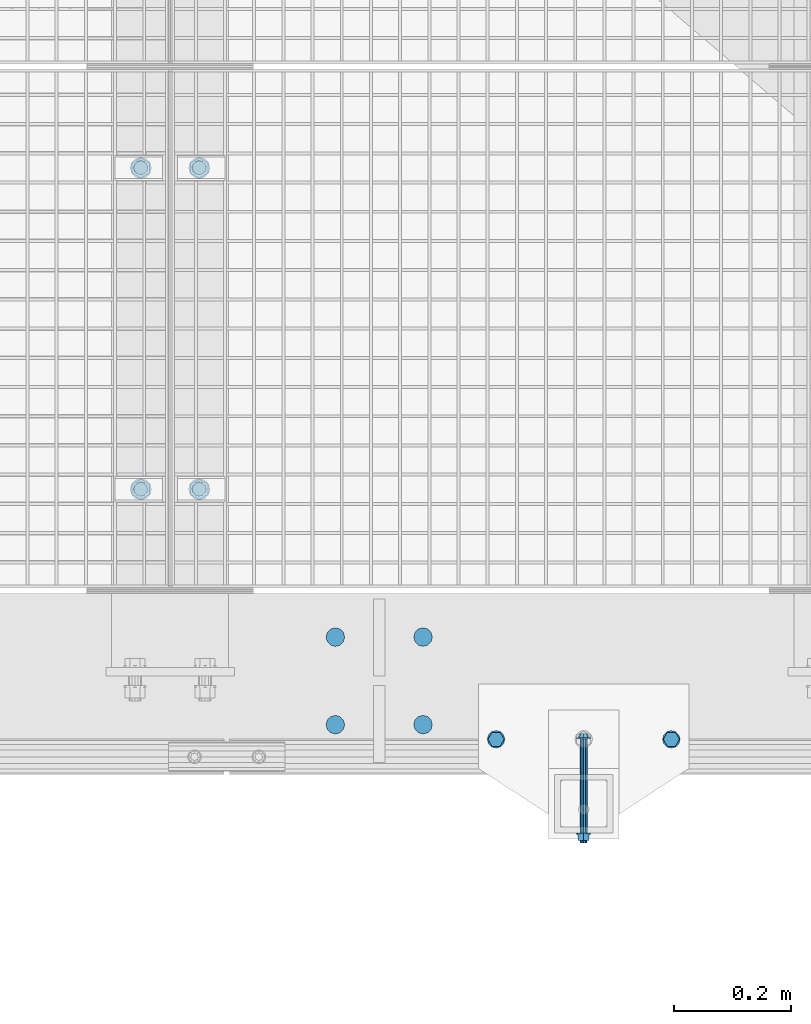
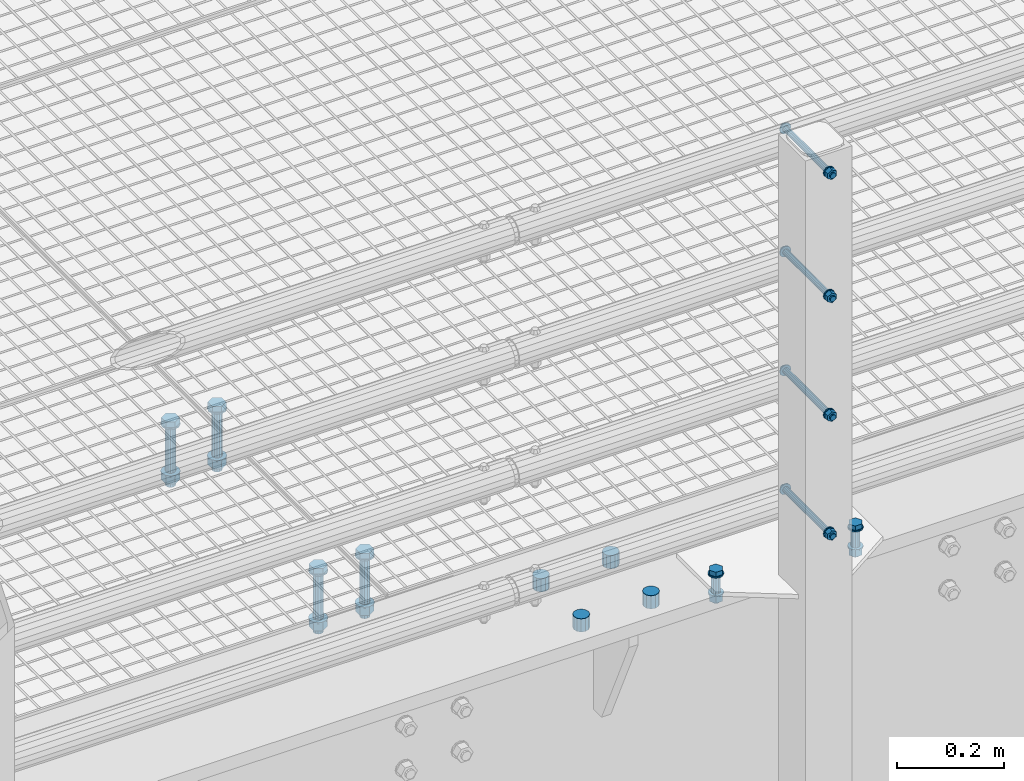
# One storey, part 10 of 1530: 8 mechanical fasteners.
"""IFC2X3 building model written with IfcOpenShell, lengths in millimetres."""

from ifc_helpers import new_model, si_unit, frame, origin_with_axes, place, context, subcontext, project, spatial, faceted_brep, source, transform, mapped, material, type_object, element, save


model = new_model("IFC2X3")

# Units and contexts
model_context = context("Model", 3, precision=1e-05, world=origin_with_axes())
body_context = subcontext(model_context, "Body", "Model", "MODEL_VIEW")
ifc_project = project(units=[si_unit("LENGTHUNIT", "METRE", prefix="MILLI"), si_unit("AREAUNIT", "SQUARE_METRE"), si_unit("VOLUMEUNIT", "CUBIC_METRE"), si_unit("MASSUNIT", "GRAM", prefix="KILO"), si_unit("TIMEUNIT", "SECOND"), si_unit("PLANEANGLEUNIT", "RADIAN"), si_unit("SOLIDANGLEUNIT", "STERADIAN"), si_unit("THERMODYNAMICTEMPERATUREUNIT", "DEGREE_CELSIUS"), si_unit("LUMINOUSINTENSITYUNIT", "LUMEN")], contexts=[model_context])

# Site, building, storey
site_placement = place(None, origin_with_axes())
site = spatial("IfcSite", under=ifc_project, at=site_placement, Name="Brattvåg", CompositionType="ELEMENT")
building_placement = place(site_placement, origin_with_axes())
building = spatial("IfcBuilding", under=site, at=building_placement, Name="Undefined", CompositionType="ELEMENT")
storey_placement = place(building_placement, origin_with_axes())
storey = spatial("IfcBuildingStorey", under=building, at=storey_placement, Name="Undefined", CompositionType="ELEMENT", Elevation=0.0)

# Mechanical fasteners
ifc_material = material(Name="8")
mechanical_fastener_type = type_object("IfcMechanicalFastenerType", Name="Bolt assembly")
shared_shape_1 = source(origin_with_axes(), body_context, "Body", "Brep", [
    faceted_brep([(17.3205080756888, -10.5, 0.0), (8.66025403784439, -10.5, 15.0), (-8.66025403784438, -10.5, 15.0), (-17.3205080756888, -10.5, 2.12115047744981e-15), (-8.66025403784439, -10.5, -15.0), (8.66025403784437, -10.5, -15.0), (8.66025403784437, 2.0, -15.0), (-8.66025403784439, 2.0, -15.0), (-17.3205080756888, 2.0, 2.12115047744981e-15), (-8.66025403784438, 2.0, 15.0), (8.66025403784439, 2.0, 15.0), (17.3205080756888, 2.0, 0.0), (10.0, 2.0, 0.0), (8.66025403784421, 2.0, 5.0000000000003), (4.9999999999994, 2.0, 8.66025403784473), (-1.03633598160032e-12, 2.0, 10.0), (-5.00000000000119, 2.0, 8.6602540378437), (-8.66025403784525, 2.0, 4.99999999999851), (-10.0, 2.0, -2.07267196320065e-12), (-8.66025403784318, 2.0, -5.00000000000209), (-4.99999999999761, 2.0, -8.66025403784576), (3.09790571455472e-12, 2.0, -10.0), (5.00000000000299, 2.0, -8.66025403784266), (8.66025403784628, 2.0, -4.99999999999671), (8.66025403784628, 142.0, -4.99999999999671), (5.00000000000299, 142.0, -8.66025403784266), (3.09790571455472e-12, 142.0, -10.0), (-4.99999999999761, 142.0, -8.66025403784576), (-8.66025403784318, 142.0, -5.00000000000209), (-10.0, 142.0, -2.07267196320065e-12), (-8.66025403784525, 142.0, 4.99999999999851), (-5.00000000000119, 142.0, 8.6602540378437), (-1.03633598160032e-12, 142.0, 10.0), (4.9999999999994, 142.0, 8.66025403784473), (8.66025403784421, 142.0, 5.0000000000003), (10.0, 142.0, 0.0), (18.5, 2.0, 0.0), (16.0214699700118, 2.0, 9.25000000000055), (9.2499999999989, 2.0, 16.0214699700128), (-1.9172215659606e-12, 2.0, 18.5), (-9.25000000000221, 2.0, 16.0214699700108), (-16.0214699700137, 2.0, 9.24999999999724), (-18.5, 2.0, -3.83444313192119e-12), (-16.0214699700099, 2.0, -9.25000000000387), (-9.24999999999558, 2.0, -16.0214699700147), (5.73112557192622e-12, 2.0, -18.5), (9.25000000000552, 2.0, -16.0214699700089), (16.0214699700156, 2.0, -9.24999999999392), (16.0214699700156, 5.0, -9.24999999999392), (9.25000000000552, 5.0, -16.0214699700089), (5.73112557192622e-12, 5.0, -18.5), (-9.24999999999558, 5.0, -16.0214699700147), (-16.0214699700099, 5.0, -9.25000000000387), (-18.5, 5.0, -3.83444313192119e-12), (-16.0214699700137, 5.0, 9.24999999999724), (-9.25000000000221, 5.0, 16.0214699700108), (-1.9172215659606e-12, 5.0, 18.5), (9.2499999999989, 5.0, 16.0214699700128), (16.0214699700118, 5.0, 9.25000000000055), (18.5, 5.0, 0.0), (18.5, 109.998931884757, 0.0), (16.0214699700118, 109.998931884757, 9.25000000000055), (9.2499999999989, 109.998931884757, 16.0214699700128), (-1.9172215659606e-12, 109.998931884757, 18.5), (-9.25000000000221, 109.998931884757, 16.0214699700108), (-16.0214699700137, 109.998931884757, 9.24999999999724), (-18.5, 109.998931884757, -3.83444313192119e-12), (-16.0214699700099, 109.998931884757, -9.25000000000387), (-9.24999999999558, 109.998931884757, -16.0214699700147), (5.73112557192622e-12, 109.998931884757, -18.5), (9.25000000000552, 109.998931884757, -16.0214699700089), (16.0214699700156, 109.998931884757, -9.24999999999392), (16.0214699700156, 112.998931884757, -9.24999999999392), (9.25000000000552, 112.998931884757, -16.0214699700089), (5.73112557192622e-12, 112.998931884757, -18.5), (-9.24999999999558, 112.998931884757, -16.0214699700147), (-16.0214699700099, 112.998931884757, -9.25000000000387), (-18.5, 112.998931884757, -3.83444313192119e-12), (-16.0214699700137, 112.998931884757, 9.24999999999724), (-9.25000000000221, 112.998931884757, 16.0214699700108), (-1.9172215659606e-12, 112.998931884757, 18.5), (9.2499999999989, 112.998931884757, 16.0214699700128), (16.0214699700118, 112.998931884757, 9.25000000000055), (18.5, 112.998931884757, 0.0), (17.3205080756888, 112.998931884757, 0.0), (8.66025403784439, 112.998931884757, 15.0), (-8.66025403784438, 112.998931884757, 15.0), (-17.3205080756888, 112.998931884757, 2.12115047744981e-15), (-8.66025403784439, 112.998931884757, -15.0), (8.66025403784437, 112.998931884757, -15.0), (8.66025403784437, 130.998931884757, -15.0), (-8.66025403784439, 130.998931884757, -15.0), (-17.3205080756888, 130.998931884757, 2.12115047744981e-15), (-8.66025403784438, 130.998931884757, 15.0), (8.66025403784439, 130.998931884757, 15.0), (17.3205080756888, 130.998931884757, 0.0)], [[[0, 1, 2, 3, 4, 5]], [[6, 7, 8, 9, 10, 11]], [[0, 11, 10, 1]], [[1, 10, 9, 2]], [[2, 9, 8, 3]], [[3, 8, 7, 4]], [[4, 7, 6, 5]], [[5, 6, 11, 0]], [[12, 13, 14, 15, 16, 17, 18, 19, 20, 21, 22, 23]], [[24, 25, 26, 27, 28, 29, 30, 31, 32, 33, 34, 35]], [[12, 35, 34, 13]], [[13, 34, 33, 14]], [[14, 33, 32, 15]], [[15, 32, 31, 16]], [[16, 31, 30, 17]], [[17, 30, 29, 18]], [[18, 29, 28, 19]], [[19, 28, 27, 20]], [[20, 27, 26, 21]], [[21, 26, 25, 22]], [[22, 25, 24, 23]], [[23, 24, 35, 12]], [[36, 37, 38, 39, 40, 41, 42, 43, 44, 45, 46, 47]], [[48, 49, 50, 51, 52, 53, 54, 55, 56, 57, 58, 59]], [[36, 59, 58, 37]], [[37, 58, 57, 38]], [[38, 57, 56, 39]], [[39, 56, 55, 40]], [[40, 55, 54, 41]], [[41, 54, 53, 42]], [[42, 53, 52, 43]], [[43, 52, 51, 44]], [[44, 51, 50, 45]], [[45, 50, 49, 46]], [[46, 49, 48, 47]], [[47, 48, 59, 36]], [[60, 61, 62, 63, 64, 65, 66, 67, 68, 69, 70, 71]], [[72, 73, 74, 75, 76, 77, 78, 79, 80, 81, 82, 83]], [[60, 83, 82, 61]], [[61, 82, 81, 62]], [[62, 81, 80, 63]], [[63, 80, 79, 64]], [[64, 79, 78, 65]], [[65, 78, 77, 66]], [[66, 77, 76, 67]], [[67, 76, 75, 68]], [[68, 75, 74, 69]], [[69, 74, 73, 70]], [[70, 73, 72, 71]], [[71, 72, 83, 60]], [[84, 85, 86, 87, 88, 89]], [[90, 91, 92, 93, 94, 95]], [[84, 95, 94, 85]], [[85, 94, 93, 86]], [[86, 93, 92, 87]], [[87, 92, 91, 88]], [[88, 91, 90, 89]], [[89, 90, 95, 84]]]),
])
for number, where, z_axis, x_axis, name in (
    (1, (5292.00477935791, 327.919311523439, -25.0), (-1.0, 1.99999855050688e-09, 0.0), (0.0, 1.0, 0.0), "Bolt assembly"),
    (2, (5192.01487731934, 327.920486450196, -25.0), (-1.0, 1.99999855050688e-09, 0.0), (0.0, 1.0, 0.0), "Bolt assembly"),
):
    element("IfcMechanicalFastener", number, at=place(storey_placement, frame(where, z_axis=z_axis, x_axis=x_axis)), inside=storey, type_object=mechanical_fastener_type, material=ifc_material, Name=name, NominalDiameter=20.0, NominalLength=140.0, context=body_context, shape_type="MappedRepresentation", body=[
        mapped(shared_shape_1, transform((0.0, 0.0, 0.0))),
        mapped(shared_shape_1, transform((549.999999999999, 0.0, 0.0))),
    ])
shared_shape_2 = source(origin_with_axes(), body_context, "Body", "Brep", [
    faceted_brep([(16.0, 0.0, 0.0), (13.8564064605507, 0.0, 8.00000000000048), (7.99999999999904, 0.0, 13.8564064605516), (-1.65813757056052e-12, 0.0, 16.0), (-8.00000000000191, 0.0, 13.8564064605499), (-13.8564064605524, 0.0, 7.99999999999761), (-16.0, 0.0, -3.31627514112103e-12), (-13.8564064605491, 0.0, -8.00000000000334), (-7.99999999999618, 0.0, -13.8564064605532), (4.95664914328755e-12, 0.0, -16.0), (8.00000000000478, 0.0, -13.8564064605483), (13.8564064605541, 0.0, -7.99999999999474), (13.8564064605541, 30.1, -7.99999999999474), (8.00000000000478, 30.1, -13.8564064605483), (4.95664914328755e-12, 30.1, -16.0), (-7.99999999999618, 30.1, -13.8564064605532), (-13.8564064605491, 30.1, -8.00000000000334), (-16.0, 30.1, -3.31627514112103e-12), (-13.8564064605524, 30.1, 7.99999999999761), (-8.00000000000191, 30.1, 13.8564064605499), (-1.65813757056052e-12, 30.1, 16.0), (7.99999999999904, 30.1, 13.8564064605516), (13.8564064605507, 30.1, 8.00000000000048), (16.0, 30.1, 0.0)], [[[0, 1, 2, 3, 4, 5, 6, 7, 8, 9, 10, 11]], [[12, 13, 14, 15, 16, 17, 18, 19, 20, 21, 22, 23]], [[0, 23, 22, 1]], [[1, 22, 21, 2]], [[2, 21, 20, 3]], [[3, 20, 19, 4]], [[4, 19, 18, 5]], [[5, 18, 17, 6]], [[6, 17, 16, 7]], [[7, 16, 15, 8]], [[8, 15, 14, 9]], [[9, 14, 13, 10]], [[10, 13, 12, 11]], [[11, 12, 23, 0]]]),
])
mechanical_fastener_1_placement = place(storey_placement, frame((5675.0, 0.0, 0.0), z_axis=(0.0, -1.0, 0.0), x_axis=(-1.0, 1.99999855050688e-09, 0.0)))
element("IfcMechanicalFastener", 3, at=mechanical_fastener_1_placement, inside=storey, type_object=mechanical_fastener_type, material=ifc_material, Name="Bolt assembly", NominalDiameter=30.0, NominalLength=30.0, context=body_context, shape_type="MappedRepresentation", body=[
    mapped(shared_shape_2, transform((0.0, 0.0, -75.0))),
    mapped(shared_shape_2, transform((150.0, 0.0, -75.0))),
    mapped(shared_shape_2, transform((0.0, 0.0, 75.0))),
    mapped(shared_shape_2, transform((150.0, 0.0, 75.0))),
])
shared_shape_3 = source(origin_with_axes(), body_context, "Body", "Brep", [
    faceted_brep([(6.49435320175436, -9.99984019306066, 0.0), (4.59220118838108, -9.99984019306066, 4.59220118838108), (3.97664443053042e-16, -9.99984019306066, 6.49435320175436), (-4.59220118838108, -9.99984019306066, 4.59220118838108), (-6.49435320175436, -9.99984019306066, 7.95328886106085e-16), (-4.59220118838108, -9.99984019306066, -4.59220118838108), (-1.19299332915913e-15, -9.99984019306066, -6.49435320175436), (4.59220118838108, -9.99984019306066, -4.59220118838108), (7.34846922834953, -2.49984019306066, -7.34846922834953), (-1.90903542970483e-15, -2.49984019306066, -10.3923048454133), (-7.34846922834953, -2.49984019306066, -7.34846922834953), (-10.3923048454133, -2.49984019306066, 1.27269028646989e-15), (-7.34846922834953, -2.49984019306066, 7.34846922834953), (6.36345143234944e-16, -2.49984019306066, 10.3923048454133), (7.34846922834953, -2.49984019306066, 7.34846922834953), (10.3923048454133, -2.49984019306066, 0.0), (6.0, -2.49984019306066, 0.0), (5.19615242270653, -2.49984019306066, 3.00000000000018), (2.99999999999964, -2.49984019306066, 5.19615242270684), (-6.21801588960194e-13, -2.49984019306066, 6.0), (-3.00000000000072, -2.49984019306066, 5.19615242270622), (-5.19615242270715, -2.49984019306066, 2.9999999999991), (-6.0, -2.49984019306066, -1.24360317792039e-12), (-5.19615242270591, -2.49984019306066, -3.00000000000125), (-2.99999999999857, -2.49984019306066, -5.19615242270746), (1.85874342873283e-12, -2.49984019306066, -6.0), (3.00000000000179, -2.49984019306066, -5.1961524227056), (5.19615242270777, -2.49984019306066, -2.99999999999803), (5.19615242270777, 177.500159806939, -2.99999999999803), (3.00000000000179, 177.500159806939, -5.1961524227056), (1.85874342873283e-12, 177.500159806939, -6.0), (-2.99999999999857, 177.500159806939, -5.19615242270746), (-5.19615242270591, 177.500159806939, -3.00000000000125), (-6.0, 177.500159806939, -1.24360317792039e-12), (-5.19615242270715, 177.500159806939, 2.9999999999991), (-3.00000000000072, 177.500159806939, 5.19615242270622), (-6.21801588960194e-13, 177.500159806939, 6.0), (2.99999999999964, 177.500159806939, 5.19615242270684), (5.19615242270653, 177.500159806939, 3.00000000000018), (6.0, 177.500159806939, 0.0), (12.0, -2.49984019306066, 0.0), (10.3923048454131, -2.49984019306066, 6.00000000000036), (5.99999999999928, -2.49984019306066, 10.3923048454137), (-1.24360317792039e-12, -2.49984019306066, 12.0), (-6.00000000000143, -2.49984019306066, 10.3923048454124), (-10.3923048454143, -2.49984019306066, 5.99999999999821), (-12.0, -2.49984019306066, -2.48720635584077e-12), (-10.3923048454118, -2.49984019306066, -6.00000000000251), (-5.99999999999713, -2.49984019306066, -10.3923048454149), (3.71748685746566e-12, -2.49984019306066, -12.0), (6.00000000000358, -2.49984019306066, -10.3923048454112), (10.3923048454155, -2.49984019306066, -5.99999999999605), (10.3923048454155, 0.000159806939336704, -5.99999999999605), (6.00000000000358, 0.000159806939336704, -10.3923048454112), (3.71748685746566e-12, 0.000159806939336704, -12.0), (-5.99999999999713, 0.000159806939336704, -10.3923048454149), (-10.3923048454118, 0.000159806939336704, -6.00000000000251), (-12.0, 0.000159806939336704, -2.48720635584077e-12), (-10.3923048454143, 0.000159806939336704, 5.99999999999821), (-6.00000000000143, 0.000159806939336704, 10.3923048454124), (-1.24360317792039e-12, 0.000159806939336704, 12.0), (5.99999999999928, 0.000159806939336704, 10.3923048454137), (10.3923048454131, 0.000159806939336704, 6.00000000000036), (12.0, 0.000159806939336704, 0.0), (12.0, 160.299998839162, 0.0), (10.3923048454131, 160.299998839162, 6.00000000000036), (5.99999999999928, 160.299998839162, 10.3923048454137), (-1.24360317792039e-12, 160.299998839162, 12.0), (-6.00000000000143, 160.299998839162, 10.3923048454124), (-10.3923048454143, 160.299998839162, 5.99999999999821), (-12.0, 160.299998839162, -2.48720635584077e-12), (-10.3923048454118, 160.299998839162, -6.00000000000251), (-5.99999999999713, 160.299998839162, -10.3923048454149), (3.71748685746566e-12, 160.299998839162, -12.0), (6.00000000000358, 160.299998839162, -10.3923048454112), (10.3923048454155, 160.299998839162, -5.99999999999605), (10.3923048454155, 162.799998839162, -5.99999999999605), (6.00000000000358, 162.799998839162, -10.3923048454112), (3.71748685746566e-12, 162.799998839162, -12.0), (-5.99999999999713, 162.799998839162, -10.3923048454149), (-10.3923048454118, 162.799998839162, -6.00000000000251), (-12.0, 162.799998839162, -2.48720635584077e-12), (-10.3923048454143, 162.799998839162, 5.99999999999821), (-6.00000000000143, 162.799998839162, 10.3923048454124), (-1.24360317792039e-12, 162.799998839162, 12.0), (5.99999999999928, 162.799998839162, 10.3923048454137), (10.3923048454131, 162.799998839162, 6.00000000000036), (12.0, 162.799998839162, 0.0), (10.9696551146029, 162.799998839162, 0.0), (5.48482755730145, 162.799998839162, 9.5), (-5.48482755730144, 162.799998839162, 9.5), (-10.9696551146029, 162.799998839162, 1.34339530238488e-15), (-5.48482755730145, 162.799998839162, -9.5), (5.48482755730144, 162.799998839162, -9.5), (5.48482755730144, 173.599999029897, -9.5), (-5.48482755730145, 173.599999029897, -9.5), (-10.9696551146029, 173.599999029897, 1.34339530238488e-15), (-5.48482755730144, 173.599999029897, 9.5), (5.48482755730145, 173.599999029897, 9.5), (10.9696551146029, 173.599999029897, 0.0)], [[[0, 1, 2, 3, 4, 5, 6, 7]], [[8, 9, 10, 11, 12, 13, 14, 15]], [[0, 15, 14, 1]], [[1, 14, 13, 2]], [[2, 13, 12, 3]], [[3, 12, 11, 4]], [[4, 11, 10, 5]], [[5, 10, 9, 6]], [[6, 9, 8, 7]], [[7, 8, 15, 0]], [[16, 17, 18, 19, 20, 21, 22, 23, 24, 25, 26, 27]], [[28, 29, 30, 31, 32, 33, 34, 35, 36, 37, 38, 39]], [[16, 39, 38, 17]], [[17, 38, 37, 18]], [[18, 37, 36, 19]], [[19, 36, 35, 20]], [[20, 35, 34, 21]], [[21, 34, 33, 22]], [[22, 33, 32, 23]], [[23, 32, 31, 24]], [[24, 31, 30, 25]], [[25, 30, 29, 26]], [[26, 29, 28, 27]], [[27, 28, 39, 16]], [[40, 41, 42, 43, 44, 45, 46, 47, 48, 49, 50, 51]], [[52, 53, 54, 55, 56, 57, 58, 59, 60, 61, 62, 63]], [[40, 63, 62, 41]], [[41, 62, 61, 42]], [[42, 61, 60, 43]], [[43, 60, 59, 44]], [[44, 59, 58, 45]], [[45, 58, 57, 46]], [[46, 57, 56, 47]], [[47, 56, 55, 48]], [[48, 55, 54, 49]], [[49, 54, 53, 50]], [[50, 53, 52, 51]], [[51, 52, 63, 40]], [[64, 65, 66, 67, 68, 69, 70, 71, 72, 73, 74, 75]], [[76, 77, 78, 79, 80, 81, 82, 83, 84, 85, 86, 87]], [[64, 87, 86, 65]], [[65, 86, 85, 66]], [[66, 85, 84, 67]], [[67, 84, 83, 68]], [[68, 83, 82, 69]], [[69, 82, 81, 70]], [[70, 81, 80, 71]], [[71, 80, 79, 72]], [[72, 79, 78, 73]], [[73, 78, 77, 74]], [[74, 77, 76, 75]], [[75, 76, 87, 64]], [[88, 89, 90, 91, 92, 93]], [[94, 95, 96, 97, 98, 99]], [[88, 99, 98, 89]], [[89, 98, 97, 90]], [[90, 97, 96, 91]], [[91, 96, 95, 92]], [[92, 95, 94, 93]], [[93, 94, 99, 88]]]),
    faceted_brep([(6.5, 0.100159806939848, 0.0), (5.62916512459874, 0.100159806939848, 3.25000000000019), (3.24999999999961, 0.100159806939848, 5.62916512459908), (-6.7361838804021e-13, 0.100159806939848, 6.5), (-3.25000000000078, 0.100159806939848, 5.6291651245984), (-5.62916512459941, 0.100159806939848, 3.24999999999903), (-6.5, 0.100159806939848, -1.34723677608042e-12), (-5.62916512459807, 0.100159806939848, -3.25000000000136), (-3.24999999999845, 0.100159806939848, -5.62916512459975), (2.01363871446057e-12, 0.100159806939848, -6.5), (3.25000000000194, 0.100159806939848, -5.62916512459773), (5.62916512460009, 0.100159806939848, -3.24999999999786), (5.62916512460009, 60.4001552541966, -3.24999999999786), (3.25000000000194, 60.4001552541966, -5.62916512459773), (2.01363871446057e-12, 60.4001552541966, -6.5), (-3.24999999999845, 60.4001552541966, -5.62916512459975), (-5.62916512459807, 60.4001552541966, -3.25000000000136), (-6.5, 60.4001552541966, -1.34723677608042e-12), (-5.62916512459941, 60.4001552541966, 3.24999999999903), (-3.25000000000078, 60.4001552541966, 5.6291651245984), (-6.7361838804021e-13, 60.4001552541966, 6.5), (3.24999999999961, 60.4001552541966, 5.62916512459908), (5.62916512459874, 60.4001552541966, 3.25000000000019), (6.5, 60.4001552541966, 0.0), (6.5, 60.1999988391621, 0.0), (5.62916512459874, 60.1999988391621, 3.25000000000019), (3.24999999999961, 60.1999988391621, 5.62916512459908), (-6.7361838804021e-13, 60.1999988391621, 6.5), (-3.25000000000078, 60.1999988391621, 5.6291651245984), (-5.62916512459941, 60.1999988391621, 3.24999999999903), (-6.5, 60.1999988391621, -1.34723677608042e-12), (-5.62916512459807, 60.1999988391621, -3.25000000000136), (-3.24999999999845, 60.1999988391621, -5.62916512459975), (2.01363871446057e-12, 60.1999988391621, -6.5), (3.25000000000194, 60.1999988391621, -5.62916512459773), (5.62916512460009, 60.1999988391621, -3.24999999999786), (5.62916512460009, 160.299998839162, -3.24999999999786), (3.25000000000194, 160.299998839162, -5.62916512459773), (2.01363871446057e-12, 160.299998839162, -6.5), (-3.24999999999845, 160.299998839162, -5.62916512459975), (-5.62916512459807, 160.299998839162, -3.25000000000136), (-6.5, 160.299998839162, -1.34723677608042e-12), (-5.62916512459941, 160.299998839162, 3.24999999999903), (-3.25000000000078, 160.299998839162, 5.6291651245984), (-6.7361838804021e-13, 160.299998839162, 6.5), (3.24999999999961, 160.299998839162, 5.62916512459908), (5.62916512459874, 160.299998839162, 3.25000000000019), (6.5, 160.299998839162, 0.0)], [[[0, 1, 2, 3, 4, 5, 6, 7, 8, 9, 10, 11]], [[12, 13, 14, 15, 16, 17, 18, 19, 20, 21, 22, 23]], [[0, 23, 22, 1]], [[1, 22, 21, 2]], [[2, 21, 20, 3]], [[3, 20, 19, 4]], [[4, 19, 18, 5]], [[5, 18, 17, 6]], [[6, 17, 16, 7]], [[7, 16, 15, 8]], [[8, 15, 14, 9]], [[9, 14, 13, 10]], [[10, 13, 12, 11]], [[11, 12, 23, 0]], [[24, 25, 26, 27, 28, 29, 30, 31, 32, 33, 34, 35]], [[36, 37, 38, 39, 40, 41, 42, 43, 44, 45, 46, 47]], [[24, 47, 46, 25]], [[25, 46, 45, 26]], [[26, 45, 44, 27]], [[27, 44, 43, 28]], [[28, 43, 42, 29]], [[29, 42, 41, 30]], [[30, 41, 40, 31]], [[31, 40, 39, 32]], [[32, 39, 38, 33]], [[33, 38, 37, 34]], [[34, 37, 36, 35]], [[35, 36, 47, 24]]]),
])
for number, where, z_axis, x_axis, name in (
    (4, (5949.9999999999, -99.6997226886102, 149.550000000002), (-1.0, 1.99999855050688e-09, 0.0), (0.0, 0.0, -1.0), "Bolt assembly"),
    (5, (5949.9999999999, -99.6997226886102, 419.550000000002), (-1.0, 1.99999855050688e-09, 0.0), (0.0, 0.0, -1.0), "Bolt assembly"),
    (6, (5949.9999999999, -99.6997226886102, 689.550000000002), (-1.0, 1.99999855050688e-09, 0.0), (0.0, 0.0, -1.0), "Bolt assembly"),
    (7, (5949.9999999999, -99.6997226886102, 969.550000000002), (-1.0, 1.99999855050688e-09, 0.0), (0.0, 0.0, -1.0), "Bolt assembly"),
):
    element("IfcMechanicalFastener", number, at=place(storey_placement, frame(where, z_axis=z_axis, x_axis=x_axis)), inside=storey, type_object=mechanical_fastener_type, material=ifc_material, Name=name, NominalDiameter=12.0, NominalLength=180.0, context=body_context, shape_type="MappedRepresentation", body=[
        mapped(shared_shape_3, transform((0.0, 0.0, 0.0))),
    ])
shared_shape_4 = source(origin_with_axes(), body_context, "Body", "Brep", [
    faceted_brep([(13.856406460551, -13.0, 0.0), (6.92820323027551, -13.0, 12.0), (-6.92820323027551, -13.0, 12.0), (-13.856406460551, -13.0, 1.69692038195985e-15), (-6.92820323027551, -13.0, -12.0), (6.9282032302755, -13.0, -12.0), (6.9282032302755, -3.0, -12.0), (-6.92820323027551, -3.0, -12.0), (-13.856406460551, -3.0, 1.69692038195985e-15), (-6.92820323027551, -3.0, 12.0), (6.92820323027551, -3.0, 12.0), (13.856406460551, -3.0, 0.0), (8.0, -3.0, 0.0), (6.92820323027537, -3.0, 4.00000000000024), (3.99999999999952, -3.0, 6.92820323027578), (-8.29068785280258e-13, -3.0, 8.0), (-4.00000000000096, -3.0, 6.92820323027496), (-6.9282032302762, -3.0, 3.99999999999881), (-8.0, -3.0, -1.65813757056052e-12), (-6.92820323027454, -3.0, -4.00000000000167), (-3.99999999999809, -3.0, -6.92820323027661), (2.47832457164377e-12, -3.0, -8.0), (4.00000000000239, -3.0, -6.92820323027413), (6.92820323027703, -3.0, -3.99999999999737), (6.92820323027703, 62.0000000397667, -3.99999999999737), (4.00000000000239, 62.0000000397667, -6.92820323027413), (2.47832457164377e-12, 62.0000000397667, -8.0), (-3.99999999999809, 62.0000000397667, -6.92820323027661), (-6.92820323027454, 62.0000000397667, -4.00000000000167), (-8.0, 62.0000000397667, -1.65813757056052e-12), (-6.9282032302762, 62.0000000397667, 3.99999999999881), (-4.00000000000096, 62.0000000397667, 6.92820323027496), (-8.29068785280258e-13, 62.0000000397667, 8.0), (3.99999999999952, 62.0000000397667, 6.92820323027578), (6.92820323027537, 62.0000000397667, 4.00000000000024), (8.0, 62.0000000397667, 0.0), (15.0, -3.0, 0.0), (12.9903810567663, -3.0, 7.50000000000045), (7.4999999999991, -3.0, 12.9903810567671), (-1.55450397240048e-12, -3.0, 15.0), (-7.50000000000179, -3.0, 12.9903810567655), (-12.9903810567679, -3.0, 7.49999999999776), (-15.0, -3.0, -3.10900794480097e-12), (-12.9903810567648, -3.0, -7.50000000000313), (-7.49999999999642, -3.0, -12.9903810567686), (4.64685857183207e-12, -3.0, -15.0), (7.50000000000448, -3.0, -12.990381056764), (12.9903810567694, -3.0, -7.49999999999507), (12.9903810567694, 0.0, -7.49999999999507), (7.50000000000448, 0.0, -12.990381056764), (0.0, 0.0, -15.0), (-7.49999999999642, 0.0, -12.9903810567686), (-12.9903810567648, 0.0, -7.50000000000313), (-15.0, 0.0, -3.10900794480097e-12), (-12.9903810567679, 0.0, 7.49999999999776), (-7.50000000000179, 0.0, 12.9903810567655), (0.0, 0.0, 15.0), (7.4999999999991, 0.0, 12.9903810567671), (12.9903810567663, 0.0, 7.50000000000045), (15.0, 0.0, 0.0), (15.0, 39.9997390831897, 0.0), (12.9903810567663, 39.9997390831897, 7.50000000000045), (7.4999999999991, 39.9997390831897, 12.9903810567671), (-1.55450397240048e-12, 39.9997390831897, 15.0), (-7.50000000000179, 39.9997390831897, 12.9903810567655), (-12.9903810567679, 39.9997390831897, 7.49999999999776), (-15.0, 39.9997390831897, -3.10900794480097e-12), (-12.9903810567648, 39.9997390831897, -7.50000000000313), (-7.49999999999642, 39.9997390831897, -12.9903810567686), (4.64685857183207e-12, 39.9997390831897, -15.0), (7.50000000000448, 39.9997390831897, -12.990381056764), (12.9903810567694, 39.9997390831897, -7.49999999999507), (12.9903810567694, 42.9997390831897, -7.49999999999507), (7.50000000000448, 42.9997390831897, -12.990381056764), (4.64685857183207e-12, 42.9997390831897, -15.0), (-7.49999999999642, 42.9997390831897, -12.9903810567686), (-12.9903810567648, 42.9997390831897, -7.50000000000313), (-15.0, 42.9997390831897, -3.10900794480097e-12), (-12.9903810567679, 42.9997390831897, 7.49999999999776), (-7.50000000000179, 42.9997390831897, 12.9903810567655), (-1.55450397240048e-12, 42.9997390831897, 15.0), (7.4999999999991, 42.9997390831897, 12.9903810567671), (12.9903810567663, 42.9997390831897, 7.50000000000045), (15.0, 42.9997390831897, 0.0), (13.856406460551, 42.9997390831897, 0.0), (6.92820323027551, 42.9997390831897, 12.0), (-6.92820323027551, 42.9997390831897, 12.0), (-13.856406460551, 42.9997390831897, 1.69692038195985e-15), (-6.92820323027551, 42.9997390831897, -12.0), (6.9282032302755, 42.9997390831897, -12.0), (6.9282032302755, 57.7997392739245, -12.0), (-6.92820323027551, 57.7997392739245, -12.0), (-13.856406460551, 57.7997392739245, 1.69692038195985e-15), (-6.92820323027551, 57.7997392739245, 12.0), (6.92820323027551, 57.7997392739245, 12.0), (13.856406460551, 57.7997392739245, 0.0)], [[[0, 1, 2, 3, 4, 5]], [[6, 7, 8, 9, 10, 11]], [[0, 11, 10, 1]], [[1, 10, 9, 2]], [[2, 9, 8, 3]], [[3, 8, 7, 4]], [[4, 7, 6, 5]], [[5, 6, 11, 0]], [[12, 13, 14, 15, 16, 17, 18, 19, 20, 21, 22, 23]], [[24, 25, 26, 27, 28, 29, 30, 31, 32, 33, 34, 35]], [[12, 35, 34, 13]], [[13, 34, 33, 14]], [[14, 33, 32, 15]], [[15, 32, 31, 16]], [[16, 31, 30, 17]], [[17, 30, 29, 18]], [[18, 29, 28, 19]], [[19, 28, 27, 20]], [[20, 27, 26, 21]], [[21, 26, 25, 22]], [[22, 25, 24, 23]], [[23, 24, 35, 12]], [[36, 37, 38, 39, 40, 41, 42, 43, 44, 45, 46, 47]], [[48, 49, 50, 51, 52, 53, 54, 55, 56, 57, 58, 59]], [[36, 59, 58, 37]], [[37, 58, 57, 38]], [[38, 57, 56, 39]], [[39, 56, 55, 40]], [[40, 55, 54, 41]], [[41, 54, 53, 42]], [[42, 53, 52, 43]], [[43, 52, 51, 44]], [[44, 51, 50, 45]], [[45, 50, 49, 46]], [[46, 49, 48, 47]], [[47, 48, 59, 36]], [[60, 61, 62, 63, 64, 65, 66, 67, 68, 69, 70, 71]], [[72, 73, 74, 75, 76, 77, 78, 79, 80, 81, 82, 83]], [[60, 83, 82, 61]], [[61, 82, 81, 62]], [[62, 81, 80, 63]], [[63, 80, 79, 64]], [[64, 79, 78, 65]], [[65, 78, 77, 66]], [[66, 77, 76, 67]], [[67, 76, 75, 68]], [[68, 75, 74, 69]], [[69, 74, 73, 70]], [[70, 73, 72, 71]], [[71, 72, 83, 60]], [[84, 85, 86, 87, 88, 89]], [[90, 91, 92, 93, 94, 95]], [[84, 95, 94, 85]], [[85, 94, 93, 86]], [[86, 93, 92, 87]], [[87, 92, 91, 88]], [[88, 91, 90, 89]], [[89, 90, 95, 84]]]),
    faceted_brep([(9.0, 0.1, 0.0), (7.79422863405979, 0.1, 4.50000000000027), (4.49999999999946, 0.1, 7.79422863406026), (-9.3270238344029e-13, 0.1, 9.0), (-4.50000000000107, 0.1, 7.79422863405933), (-7.79422863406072, 0.1, 4.49999999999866), (-9.0, 0.1, -1.86540476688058e-12), (-7.79422863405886, 0.1, -4.50000000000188), (-4.49999999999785, 0.1, -7.79422863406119), (2.78811514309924e-12, 0.1, -9.0), (4.50000000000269, 0.1, -7.7942286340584), (7.79422863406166, 0.1, -4.49999999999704), (7.79422863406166, 10.1, -4.49999999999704), (4.50000000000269, 10.1, -7.7942286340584), (2.78811514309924e-12, 10.1, -9.0), (-4.49999999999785, 10.1, -7.79422863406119), (-7.79422863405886, 10.1, -4.50000000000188), (-9.0, 10.1, -1.86540476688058e-12), (-7.79422863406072, 10.1, 4.49999999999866), (-4.50000000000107, 10.1, 7.79422863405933), (-9.3270238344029e-13, 10.1, 9.0), (4.49999999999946, 10.1, 7.79422863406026), (7.79422863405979, 10.1, 4.50000000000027), (9.0, 10.1, 0.0), (9.0, 9.8997390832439, 0.0), (7.79422863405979, 9.8997390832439, 4.50000000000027), (4.49999999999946, 9.8997390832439, 7.79422863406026), (-9.3270238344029e-13, 9.8997390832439, 9.0), (-4.50000000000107, 9.8997390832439, 7.79422863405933), (-7.79422863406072, 9.8997390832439, 4.49999999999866), (-9.0, 9.8997390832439, -1.86540476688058e-12), (-7.79422863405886, 9.8997390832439, -4.50000000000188), (-4.49999999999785, 9.8997390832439, -7.79422863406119), (2.78811514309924e-12, 9.8997390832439, -9.0), (4.50000000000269, 9.8997390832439, -7.7942286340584), (7.79422863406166, 9.8997390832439, -4.49999999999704), (7.79422863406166, 39.9997390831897, -4.49999999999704), (4.50000000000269, 39.9997390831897, -7.7942286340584), (2.78811514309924e-12, 39.9997390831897, -9.0), (-4.49999999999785, 39.9997390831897, -7.79422863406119), (-7.79422863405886, 39.9997390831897, -4.50000000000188), (-9.0, 39.9997390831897, -1.86540476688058e-12), (-7.79422863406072, 39.9997390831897, 4.49999999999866), (-4.50000000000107, 39.9997390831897, 7.79422863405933), (-9.3270238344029e-13, 39.9997390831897, 9.0), (4.49999999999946, 39.9997390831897, 7.79422863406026), (7.79422863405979, 39.9997390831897, 4.50000000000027), (9.0, 39.9997390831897, 0.0)], [[[0, 1, 2, 3, 4, 5, 6, 7, 8, 9, 10, 11]], [[12, 13, 14, 15, 16, 17, 18, 19, 20, 21, 22, 23]], [[0, 23, 22, 1]], [[1, 22, 21, 2]], [[2, 21, 20, 3]], [[3, 20, 19, 4]], [[4, 19, 18, 5]], [[5, 18, 17, 6]], [[6, 17, 16, 7]], [[7, 16, 15, 8]], [[8, 15, 14, 9]], [[9, 14, 13, 10]], [[10, 13, 12, 11]], [[11, 12, 23, 0]], [[24, 25, 26, 27, 28, 29, 30, 31, 32, 33, 34, 35]], [[36, 37, 38, 39, 40, 41, 42, 43, 44, 45, 46, 47]], [[24, 47, 46, 25]], [[25, 46, 45, 26]], [[26, 45, 44, 27]], [[27, 44, 43, 28]], [[28, 43, 42, 29]], [[29, 42, 41, 30]], [[30, 41, 40, 31]], [[31, 40, 39, 32]], [[32, 39, 38, 33]], [[33, 38, 37, 34]], [[34, 37, 36, 35]], [[35, 36, 47, 24]]]),
])
mechanical_fastener_2_placement = place(storey_placement, frame((5800.00080864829, -99.999607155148, 9.9997390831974), z_axis=(0.0, 1.0, 0.0), x_axis=(1.0, 0.0, 0.0)))
element("IfcMechanicalFastener", 8, at=mechanical_fastener_2_placement, inside=storey, type_object=mechanical_fastener_type, material=ifc_material, Name="Bolt assembly", NominalDiameter=16.0, NominalLength=65.0, context=body_context, shape_type="MappedRepresentation", body=[
    mapped(shared_shape_4, transform((0.0, 0.0, 0.0))),
    mapped(shared_shape_4, transform((300.0, 0.0, 0.0))),
])

save(model, "model.ifc")
